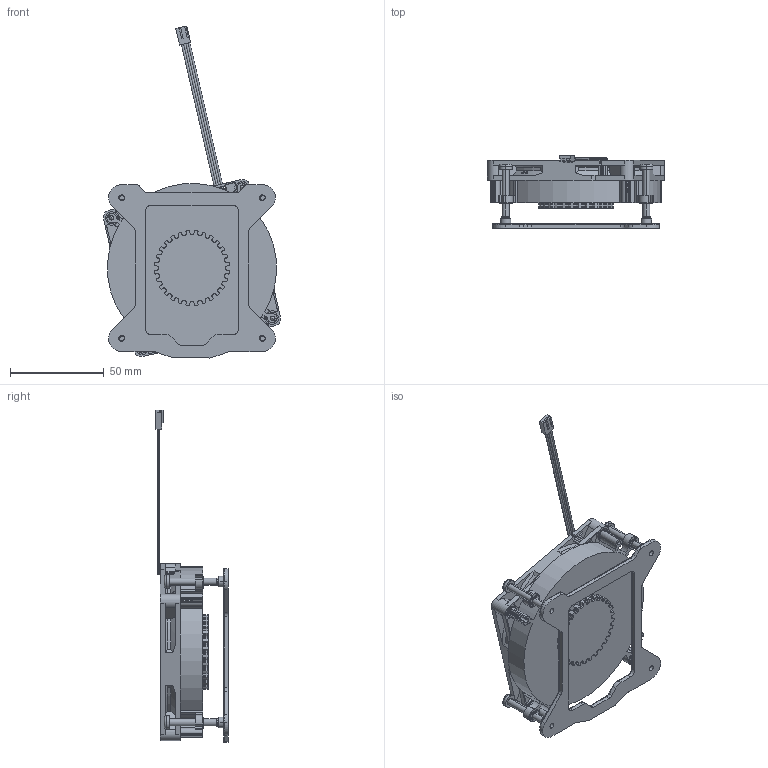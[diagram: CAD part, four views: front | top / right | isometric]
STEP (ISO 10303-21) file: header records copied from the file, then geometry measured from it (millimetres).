
FILE_DESCRIPTION((''),'2;1');
FILE_NAME('RG3119-25-002_ME_ASM','2022-11-03T',('User'),(''),'PRO/ENGINEER BY PARAMETRIC TECHNOLOGY CORPORATION, 2017170','PRO/ENGINEER BY PARAMETRIC TECHNOLOGY CORPORATION, 2017170','');
FILE_SCHEMA(('CONFIG_CONTROL_DESIGN'));
Length unit declared in the file: millimetre
Products named in the file (18): D90X15_AL_SINK__2; D90_15H_AL_ASSY_ASM_1_ASM; DEAKTOP_SCREW_D7_30_8L_1; E-RING_1; DESKTOP_SCREW_ASSY_ASM_1_ASM; DESKTOP_D90_15H_AL_ASSY_ASM_1_ASM; PRT0002_1; 8010_3; R128010BUAF325AR_1_ASM_2_ASM; R128010BUAF325AR_ASM_1_ASM; FAN_SCREW_T3X16_6_1; LABEL_R24_1_1; R128010BUAF325AR_10H_ASSY_ASM_1_ASM; 850-BP1156_1; MYLER_1; 850-BP1156_ASSY__ASM_1_ASM; RG3119-25_ASM_1_ASM; RG3119-25-002_ME_ASM
Assembly tree (23 placements, depth 6):
  RG3119-25-002_ME_ASM
    RG3119-25_ASM_1_ASM
      DESKTOP_D90_15H_AL_ASSY_ASM_1_ASM
        D90_15H_AL_ASSY_ASM_1_ASM
          D90X15_AL_SINK__2
        DESKTOP_SCREW_ASSY_ASM_1_ASM  x4
          DEAKTOP_SCREW_D7_30_8L_1
          E-RING_1
      R128010BUAF325AR_10H_ASSY_ASM_1_ASM
        R128010BUAF325AR_ASM_1_ASM
          R128010BUAF325AR_1_ASM_2_ASM
            PRT0002_1
            8010_3
        FAN_SCREW_T3X16_6_1  x4
        LABEL_R24_1_1
      850-BP1156_ASSY__ASM_1_ASM
        850-BP1156_1
        MYLER_1
Bounding box: 94.34 x 38.5 x 176.94 mm (x, y, z)
Volume: 127592.9 mm3; surface area: 62754.2 mm2
Topology: 18 solids, 18 shells, 3689 faces, 10248 edges, 6665 vertices
Faces by surface type: plane 1969, cylinder 726, bspline 715, extrusion 113, cone 111, torus 47, sphere 8
Entity records: 87178 total; most frequent: CARTESIAN_POINT 25692, ORIENTED_EDGE 13498, DIRECTION 11735, EDGE_CURVE 6749, VECTOR 4531, VERTEX_POINT 4484, LINE 4421, AXIS2_PLACEMENT_3D 3602
